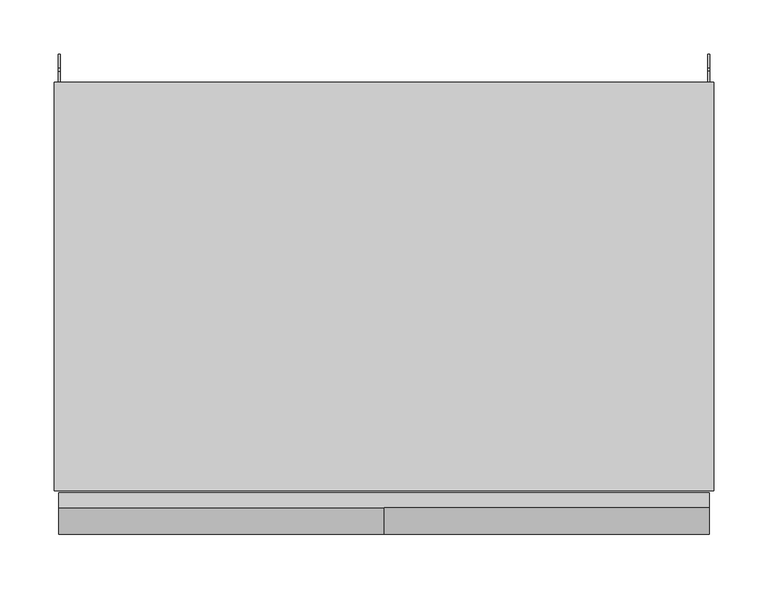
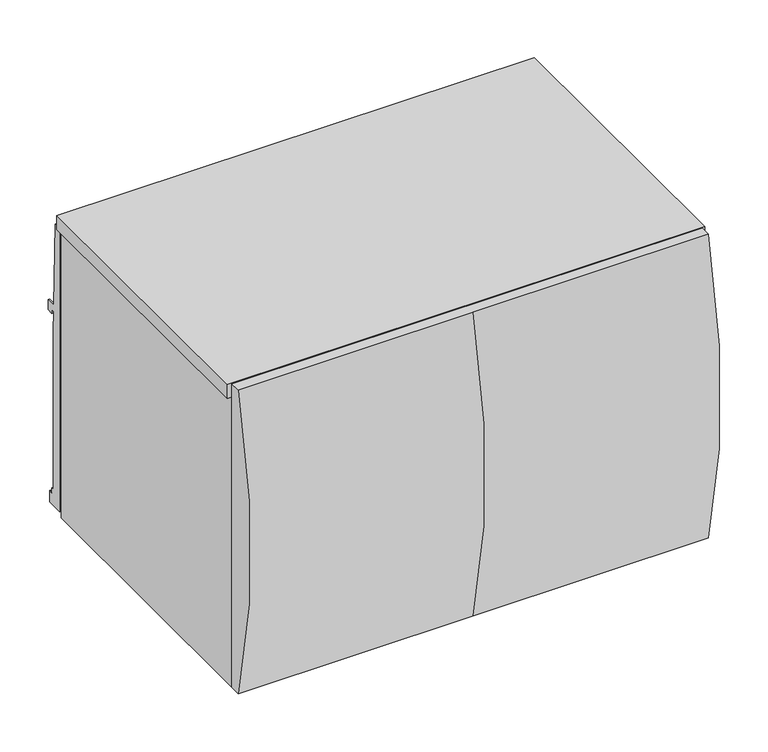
"""IFC4 building model written with IfcOpenShell, lengths in millimetres: furniture geometry, Steelcase - Universal Storage - Over the Case Bin - Radius Front : For Montage - 24W."""

from ifc_helpers import new_model, si_unit, frame, origin, place, context, project, spatial, polyline, circle_curve, outline, extrude, source, transform, mapped, element, save
from ifc_brep_helpers import plane_surface, cylinder_surface, advanced_brep


def furniture_a496e51a(model_context):
    return source(origin(), model_context, "Body", "SolidModel", [
        advanced_brep(
        [(605.1703, -393.0769518, 1677.2612846), (605.1703, -393.0769518, 1266.8226746), (605.1703, -379.476, 1266.8226746), (605.1703, -379.476, 1677.2612846), (304.8, -393.0769518, 1677.2612846), (304.8, -393.0769518, 1266.8226746), (4.4448587, -393.0769518, 1266.8226746), (4.4448587, -379.476, 1266.8226746), (4.4448587, -379.476, 1677.2612846), (4.4448587, -393.0769518, 1677.2612846)],
        [
            (0, 1, circle_curve(frame((605.1703, 352.6331971, 1472.0419796), z_axis=(1.0, 0.0, 0.0), x_axis=(0.0, 1.0, 0.0)), 773.4329895)),
            (1, 2),
            (2, 3),
            (3, 0),
            (0, 4),
            (4, 5, circle_curve(frame((304.8, 352.6331971, 1472.0419796), z_axis=(1.0, 0.0, 0.0), x_axis=(0.0, 1.0, 0.0)), 773.4329895)),
            (5, 1),
            (5, 6),
            (6, 7),
            (7, 2),
            (7, 8),
            (8, 3),
            (8, 9),
            (9, 4),
            (6, 9, circle_curve(frame((4.4448587, 352.6331971, 1472.0419796), z_axis=(-1.0, 0.0, 0.0), x_axis=(0.0, 1.0, 0.0)), 773.4329895)),
        ],
        [
            plane_surface(frame((605.1703, 1126.0661866, 1472.0419796), z_axis=(1.0, 0.0, 0.0), x_axis=(0.0, 0.0, 1.0))),
            cylinder_surface(frame((304.8, 352.6331971, 1472.0419796), z_axis=(1.0, 0.0, 0.0), x_axis=(0.0, 1.0, 0.0)), 773.4329895),
            plane_surface(frame((605.1703, -393.0769518, 1266.8226746), z_axis=(0.0, 0.0, -1.0), x_axis=(-1.0, 0.0, 0.0))),
            plane_surface(frame((605.1703, -379.476, 1266.8226746), z_axis=(0.0, 1.0, 0.0), x_axis=(-1.0, 0.0, 0.0))),
            plane_surface(frame((605.1703, -379.476, 1677.2612846), z_axis=(0.0, 0.0, 1.0), x_axis=(-1.0, 0.0, 0.0))),
            plane_surface(frame((4.4448587, 1126.0661866, 1472.0419796), z_axis=(-1.0, 0.0, 0.0), x_axis=(0.0, 0.0, -1.0))),
            cylinder_surface(frame((4.4448587, 352.6331971, 1472.0419796), z_axis=(1.0, 0.0, 0.0), x_axis=(0.0, 1.0, 0.0)), 773.4329895),
        ],
        [
            (0, [[1, 2, 3, 4]]),
            (1, [[-1, 5, 6, 7]]),
            (2, [[-2, -7, 8, 9, 10]]),
            (3, [[-3, -10, 11, 12]]),
            (4, [[-4, -12, 13, 14, -5]]),
            (5, [[-13, -11, -9, 15]]),
            (6, [[-15, -8, -6, -14]]),
        ],
    ),
        extrude(outline(polyline([(0.0, 1657.096), (10.1677703, 1657.096), (13.3857995, 1545.8185744), (26.0095997, 1545.8185744), (26.0095997, 1532.1025512), (17.5768, 1532.1025512), (17.5768, 1537.1064608), (13.3349998, 1537.1064608), (13.3349998, 1522.6538546), (14.2747998, 1522.6538546), (14.2747998, 1296.0858527), (17.2466001, 1296.0858527), (17.2466001, 1289.7358043), (22.5806007, 1289.7358043), (22.5806007, 1274.2164027), (0.0, 1274.2164027), (0.0, 1657.096)])), frame((604.0882, 0.0, 0.0), z_axis=(1.0, 0.0, 0.0), x_axis=(0.0, 1.0, 0.0)), (0.0, 0.0, 1.0), 1.905),
        extrude(outline(polyline([(609.6, -377.213238), (0.0, -377.213238), (0.0, 0.0), (609.6, 0.0), (609.6, -377.213238)])), frame((0.0, 0.0, 1657.35), z_axis=(0.0, 0.0, 1.0), x_axis=(1.0, 0.0, 0.0)), (0.0, 0.0, 1.0), 19.05),
        extrude(outline(polyline([(15.875, -377.213238), (5.5118, -377.213238), (5.5118, 0.0), (15.875, 0.0), (15.875, -377.213238)])), frame((0.0, 0.0, 1265.428), z_axis=(0.0, 0.0, 1.0), x_axis=(1.0, 0.0, 0.0)), (0.0, 0.0, 1.0), 391.6679457),
        extrude(outline(polyline([(608.4568665, -377.213238), (593.725, -377.213238), (593.725, 0.0), (608.4568665, 0.0), (608.4568665, -377.213238)])), frame((0.0, 0.0, 1265.428), z_axis=(0.0, 0.0, 1.0), x_axis=(1.0, 0.0, 0.0)), (0.0, 0.0, 1.0), 391.6679457),
        extrude(outline(polyline([(0.0, 1657.096), (10.1677703, 1657.096), (13.3857995, 1545.8185744), (26.0095997, 1545.8185744), (26.0095997, 1532.1025512), (17.5768, 1532.1025512), (17.5768, 1537.1064608), (13.3349998, 1537.1064608), (13.3349998, 1522.6538546), (14.2747998, 1522.6538546), (14.2747998, 1296.0858527), (17.2466001, 1296.0858527), (17.2466001, 1289.7358043), (22.5806007, 1289.7358043), (22.5806007, 1274.2164027), (0.0, 1274.2164027), (0.0, 1657.096)])), frame((3.6068, 0.0, 0.0), z_axis=(1.0, 0.0, 0.0), x_axis=(0.0, 1.0, 0.0)), (0.0, 0.0, 1.0), 1.905),
        extrude(outline(polyline([(-35.4584098, 1372.819257), (-27.0763996, 1372.819257), (-27.0763996, 1360.1191601), (-33.4264117, 1360.1191601), (-33.4264117, 1323.1622589), (-27.0763996, 1323.1622589), (-27.0763996, 1265.428), (-35.4584098, 1265.428), (-35.4584098, 1293.054213), (-46.1263996, 1293.054213), (-46.1263996, 1268.1875622), (-59.9694137, 1268.1875622), (-59.9694137, 1294.8575912), (-332.8542818, 1294.8575912), (-332.8542818, 1268.1875622), (-377.3042823, 1268.1875622), (-377.3042823, 1310.7072052), (-35.4584098, 1310.7072052), (-35.4584098, 1372.819257)])), frame((15.875, 0.0, 0.0), z_axis=(1.0, 0.0, 0.0), x_axis=(0.0, 1.0, 0.0)), (0.0, 0.0, 1.0), 577.85),
    ])


if __name__ == "__main__":
    model = new_model("IFC4")
    model_context = context("Model", 3, world=origin())
    ifc_project = project(units=[si_unit("LENGTHUNIT", "METRE", prefix="MILLI")], contexts=[model_context])
    site = spatial("IfcSite", under=ifc_project)
    building = spatial("IfcBuilding", under=site)
    placement = place(None, origin())
    furniture_shape = furniture_a496e51a(model_context)
    element("IfcFurniture", 1, ObjectType="Steelcase - Universal Storage - Over the Case Bin - Radius Front : For Montage - 24W", at=placement, inside=building, context=model_context, shape_type="MappedRepresentation", body=[
        mapped(furniture_shape, transform((0.0, 0.0, 0.0), x_axis=(1.0, 0.0, 0.0), y_axis=(0.0, 1.0, 0.0), z_axis=(0.0, 0.0, 1.0))),
    ])
    save(model, "model.ifc")
